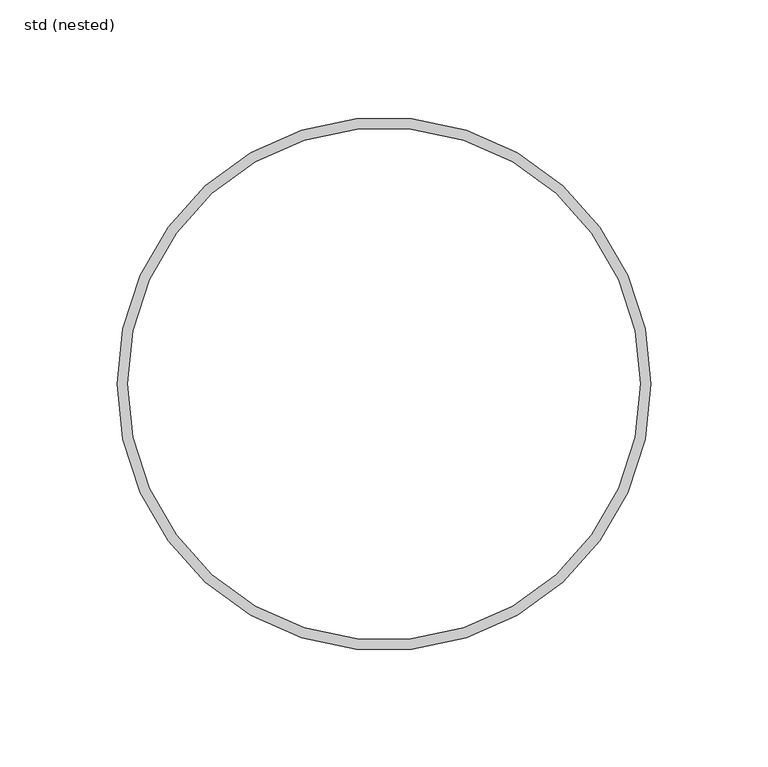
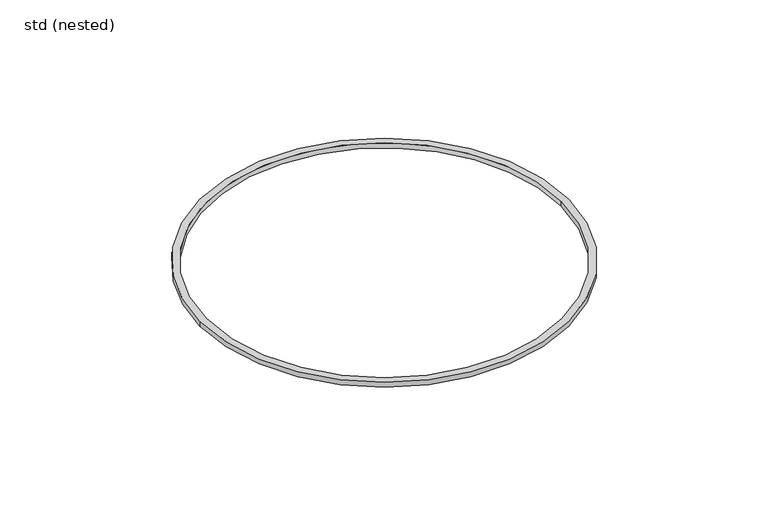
"""IFC4 building model written with IfcOpenShell, lengths in millimetres: pipe fitting geometry, ZZZ_do not use_PIF_GEN_WPB_GM-X (compound) pipe seal_ACO : std (nested)."""

from ifc_helpers import new_model, si_unit, point, origin, origin_with_axes, origin_2d, place, context, project, spatial, circle_curve, trimmed, segment, composite_curve, outline, extrude, source, transform, mapped, element, save


def std_nested_a7162979(model_context):
    return source(origin(), model_context, "Body", "SweptSolid", [
        extrude(outline(composite_curve([segment(trimmed(circle_curve(origin_2d(), 114.0), [point((114.0, 0.0))], [point((-114.0, 0.0))], False, "CARTESIAN"), True, "CONTINUOUS"), segment(trimmed(circle_curve(origin_2d(), 114.0), [point((-114.0, 0.0))], [point((114.0, 0.0))], False, "CARTESIAN"), True, "CONTINUOUS")], self_intersect=False), holes=[composite_curve([segment(trimmed(circle_curve(origin_2d(), 109.5), [point((109.5, 0.0))], [point((-109.5, 0.0))], True, "CARTESIAN"), True, "CONTINUOUS"), segment(trimmed(circle_curve(origin_2d(), 109.5), [point((-109.5, 0.0))], [point((109.5, 0.0))], True, "CARTESIAN"), True, "CONTINUOUS")], self_intersect=False)]), origin_with_axes(), (0.0, 0.0, 1.0), 3.2),
    ])


if __name__ == "__main__":
    model = new_model("IFC4")
    model_context = context("Model", 3, world=origin())
    ifc_project = project(units=[si_unit("LENGTHUNIT", "METRE", prefix="MILLI")], contexts=[model_context])
    site = spatial("IfcSite", under=ifc_project)
    building = spatial("IfcBuilding", under=site)
    placement = place(None, origin())
    std_nested_shape = std_nested_a7162979(model_context)
    element("IfcPipeFitting", 1, ObjectType="ZZZ_do not use_PIF_GEN_WPB_GM-X (compound) pipe seal_ACO : std (nested)", at=placement, inside=building, context=model_context, shape_type="MappedRepresentation", body=[
        mapped(std_nested_shape, transform((0.0, 0.0, 0.0), x_axis=(1.0, 0.0, 0.0), y_axis=(0.0, 1.0, 0.0), z_axis=(0.0, 0.0, 1.0))),
    ])
    save(model, "model.ifc")
